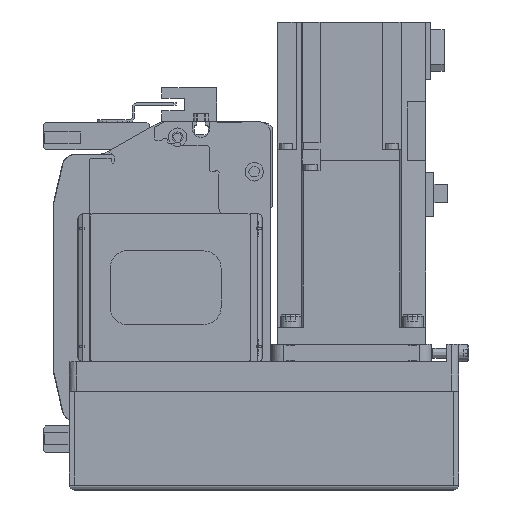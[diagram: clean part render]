
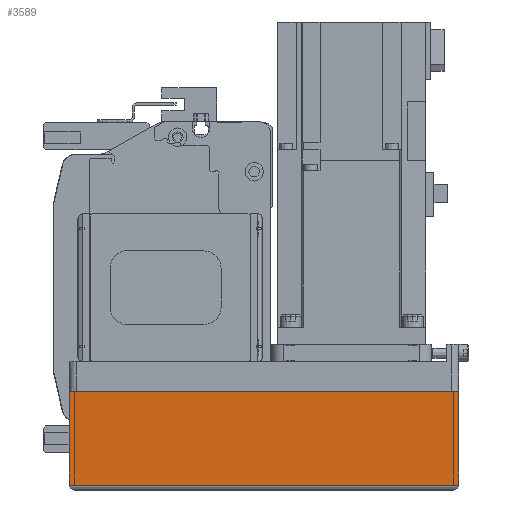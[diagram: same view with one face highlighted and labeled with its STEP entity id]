
A CAD part, left-side view. The second image highlights one B-rep face of the part: STEP entity #3589.
In plain terms, the highlighted planar face has unit normal (-1, 0, 0) as drawn and (0, 1, 0) by its records, which use the part's own axes.
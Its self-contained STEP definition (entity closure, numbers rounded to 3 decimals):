
#3589 = ADVANCED_FACE( '', ( #7526 ), #7527, .T. );
#7526 = FACE_OUTER_BOUND( '', #11526, .T. );
#7527 = PLANE( '', #11527 );
#11526 = EDGE_LOOP( '', ( #21589, #21590, #21591, #21592 ) );
#11527 = AXIS2_PLACEMENT_3D( '', #21593, #21594, #21595 );
#21589 = ORIENTED_EDGE( '', *, *, #26013, .F. );
#21590 = ORIENTED_EDGE( '', *, *, #23900, .F. );
#21591 = ORIENTED_EDGE( '', *, *, #24902, .T. );
#21592 = ORIENTED_EDGE( '', *, *, #24260, .T. );
#21593 = CARTESIAN_POINT( '', ( -158., 39., -50. ) );
#21594 = DIRECTION( '', ( 0., 1., 0. ) );
#21595 = DIRECTION( '', ( 0., 0., 1. ) );
#23900 = EDGE_CURVE( '', #29146, #29149, #29150, .T. );
#24260 = EDGE_CURVE( '', #29704, #29702, #29705, .T. );
#24902 = EDGE_CURVE( '', #29146, #29704, #30595, .T. );
#26013 = EDGE_CURVE( '', #29149, #29702, #31966, .T. );
#29146 = VERTEX_POINT( '', #36850 );
#29149 = VERTEX_POINT( '', #36853 );
#29150 = LINE( '', #36854, #36855 );
#29702 = VERTEX_POINT( '', #37924 );
#29704 = VERTEX_POINT( '', #37927 );
#29705 = LINE( '', #37928, #37929 );
#30595 = LINE( '', #39407, #39408 );
#31966 = LINE( '', #41590, #41591 );
#36850 = CARTESIAN_POINT( '', ( -158., 39., -50. ) );
#36853 = CARTESIAN_POINT( '', ( 0., 39., -50. ) );
#36854 = CARTESIAN_POINT( '', ( -158., 39., -50. ) );
#36855 = VECTOR( '', #44052, 1000. );
#37924 = CARTESIAN_POINT( '', ( 0., 39., -12.1 ) );
#37927 = CARTESIAN_POINT( '', ( -158., 39., -12.1 ) );
#37928 = CARTESIAN_POINT( '', ( -158., 39., -12.1 ) );
#37929 = VECTOR( '', #44522, 1000. );
#39407 = CARTESIAN_POINT( '', ( -158., 39., -50. ) );
#39408 = VECTOR( '', #45192, 1000. );
#41590 = CARTESIAN_POINT( '', ( 0., 39., -50. ) );
#41591 = VECTOR( '', #46185, 1000. );
#44052 = DIRECTION( '', ( 1., 0., 0. ) );
#44522 = DIRECTION( '', ( 1., 0., 0. ) );
#45192 = DIRECTION( '', ( 0., 0., 1. ) );
#46185 = DIRECTION( '', ( 0., 0., 1. ) );
